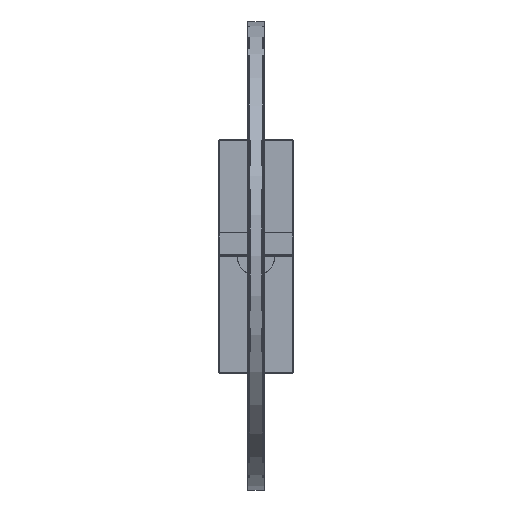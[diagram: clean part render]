
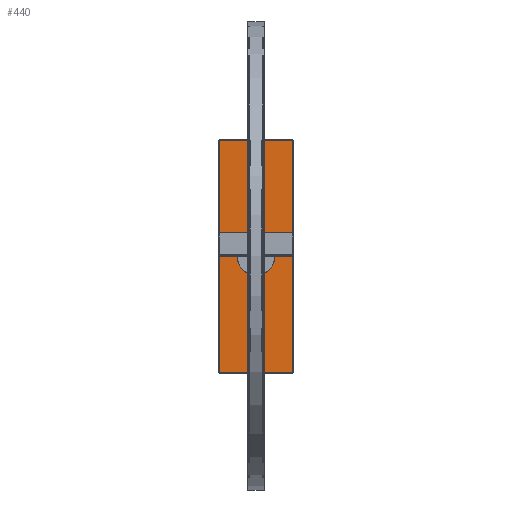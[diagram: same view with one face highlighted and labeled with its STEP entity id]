
A CAD part, top view. The second image highlights one B-rep face of the part: STEP entity #440.
In plain terms, the highlighted planar face has unit normal (0, 0, 1) as drawn and (0, -1, 0) by its records, which use the part's own axes.
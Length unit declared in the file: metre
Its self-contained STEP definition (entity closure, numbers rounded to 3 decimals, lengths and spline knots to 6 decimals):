
#440 = ADVANCED_FACE( '', ( #734, #735 ), #736, .T. );
#734 = FACE_BOUND( '', #1071, .T. );
#735 = FACE_OUTER_BOUND( '', #1072, .T. );
#736 = PLANE( '', #1073 );
#1071 = EDGE_LOOP( '', ( #2114 ) );
#1072 = EDGE_LOOP( '', ( #2115, #2116, #2117, #2118 ) );
#1073 = AXIS2_PLACEMENT_3D( '', #2119, #2120, #2121 );
#2114 = ORIENTED_EDGE( '', *, *, #2709, .F. );
#2115 = ORIENTED_EDGE( '', *, *, #2710, .T. );
#2116 = ORIENTED_EDGE( '', *, *, #2711, .F. );
#2117 = ORIENTED_EDGE( '', *, *, #2712, .F. );
#2118 = ORIENTED_EDGE( '', *, *, #2713, .F. );
#2119 = CARTESIAN_POINT( '', ( -0.04, 0., -0.125 ) );
#2120 = DIRECTION( '', ( 0., -1., 0. ) );
#2121 = DIRECTION( '', ( 0., 0., -1. ) );
#2709 = EDGE_CURVE( '', #3311, #3311, #3312, .T. );
#2710 = EDGE_CURVE( '', #3313, #3314, #3315, .T. );
#2711 = EDGE_CURVE( '', #3316, #3314, #3317, .T. );
#2712 = EDGE_CURVE( '', #3318, #3316, #3319, .T. );
#2713 = EDGE_CURVE( '', #3313, #3318, #3320, .T. );
#3311 = VERTEX_POINT( '', #4818 );
#3312 = CIRCLE( '', #4819, 0.005 );
#3313 = VERTEX_POINT( '', #4820 );
#3314 = VERTEX_POINT( '', #4821 );
#3315 = LINE( '', #4822, #4823 );
#3316 = VERTEX_POINT( '', #4824 );
#3317 = LINE( '', #4825, #4826 );
#3318 = VERTEX_POINT( '', #4827 );
#3319 = LINE( '', #4828, #4829 );
#3320 = LINE( '', #4830, #4831 );
#4818 = CARTESIAN_POINT( '', ( 0., 0., -0.005 ) );
#4819 = AXIS2_PLACEMENT_3D( '', #5433, #5434, #5435 );
#4820 = CARTESIAN_POINT( '', ( 0.0385, 0., 0.1235 ) );
#4821 = CARTESIAN_POINT( '', ( -0.0385, 0., 0.1235 ) );
#4822 = CARTESIAN_POINT( '', ( 0.0385, 0., 0.1235 ) );
#4823 = VECTOR( '', #5436, 1. );
#4824 = CARTESIAN_POINT( '', ( -0.0385, 0., -0.1235 ) );
#4825 = CARTESIAN_POINT( '', ( -0.0385, 0., -0.1235 ) );
#4826 = VECTOR( '', #5437, 1. );
#4827 = CARTESIAN_POINT( '', ( 0.0385, 0., -0.1235 ) );
#4828 = CARTESIAN_POINT( '', ( 0.0385, 0., -0.1235 ) );
#4829 = VECTOR( '', #5438, 1. );
#4830 = CARTESIAN_POINT( '', ( 0.0385, 0., 0.1235 ) );
#4831 = VECTOR( '', #5439, 1. );
#5433 = CARTESIAN_POINT( '', ( 0., 0., 0. ) );
#5434 = DIRECTION( '', ( 0., -1., 0. ) );
#5435 = DIRECTION( '', ( 0., 0., -1. ) );
#5436 = DIRECTION( '', ( -1., 0., 0. ) );
#5437 = DIRECTION( '', ( 0., 0., 1. ) );
#5438 = DIRECTION( '', ( -1., 0., 0. ) );
#5439 = DIRECTION( '', ( 0., 0., -1. ) );
